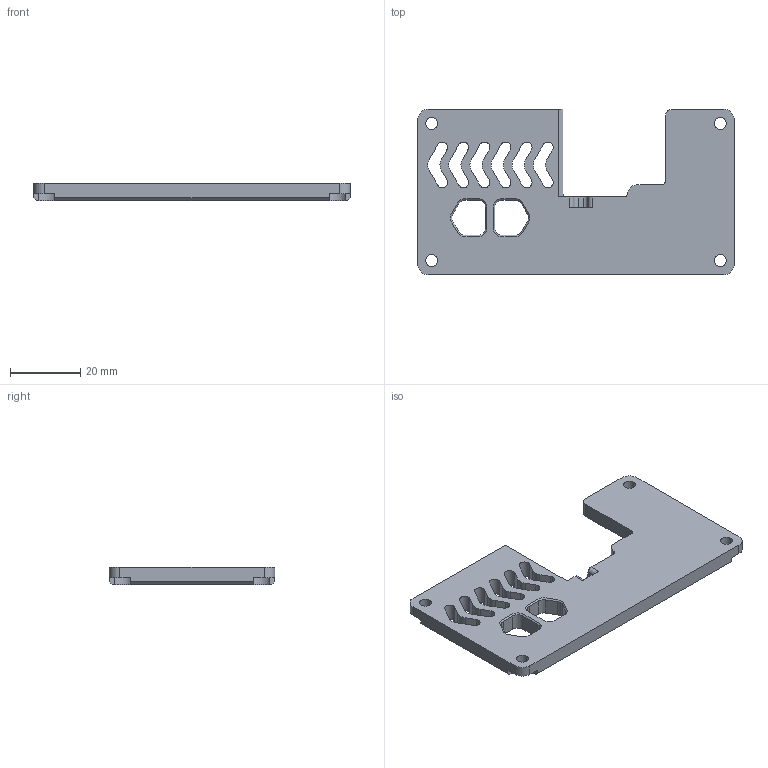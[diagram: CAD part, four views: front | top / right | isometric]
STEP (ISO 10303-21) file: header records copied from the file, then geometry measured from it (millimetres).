
FILE_DESCRIPTION((''),'2;1');
FILE_NAME('_000_9990009_2_LLL','2024-10-21T08:46:57',('Administrator'),(''),'CREO PARAMETRIC BY PTC INC, 2024063','CREO PARAMETRIC BY PTC INC, 2024063','');
FILE_SCHEMA(('CONFIG_CONTROL_DESIGN'));
Length unit declared in the file: millimetre
Products named in the file (1): _000_9990009_2_LLL
Bounding box: 90 x 47 x 5 mm (x, y, z)
Volume: 14404.6 mm3; surface area: 9729.8 mm2
Topology: 1 solids, 1 shells, 261 faces, 720 edges, 471 vertices
Faces by surface type: plane 153, cylinder 71, extrusion 21, cone 16
Entity records: 8456 total; most frequent: CARTESIAN_POINT 1664, ORIENTED_EDGE 1440, DIRECTION 1329, EDGE_CURVE 720, VECTOR 537, LINE 516, VERTEX_POINT 471, AXIS2_PLACEMENT_3D 396
